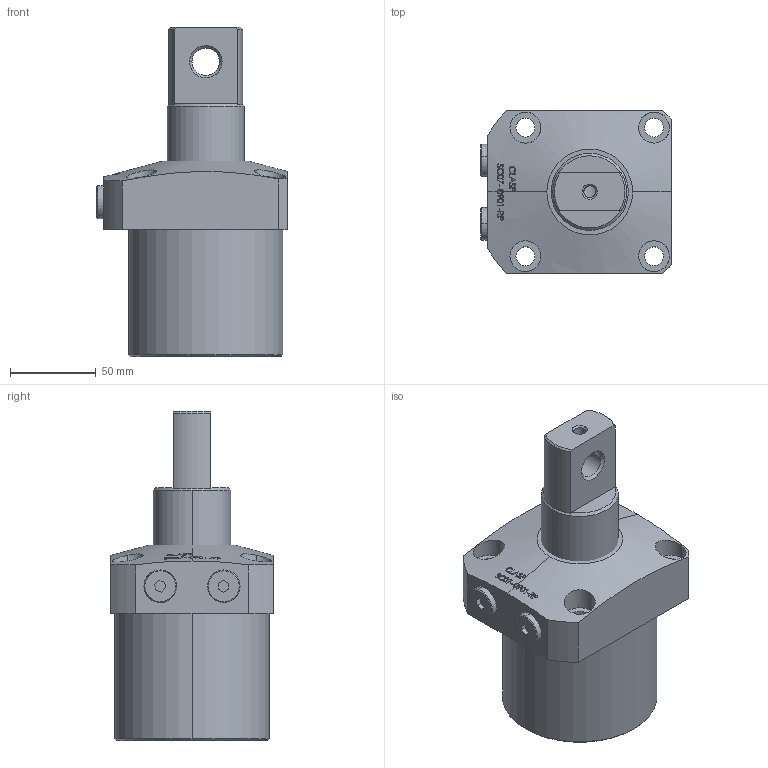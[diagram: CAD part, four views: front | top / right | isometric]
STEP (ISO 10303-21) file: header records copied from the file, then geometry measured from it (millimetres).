
FILE_DESCRIPTION (( 'STEP AP203' ), '1' );
FILE_NAME ('SC07-0901-RP.STEP', '2022-07-08T16:58:54', ( '' ), ( '' ), 'SwSTEP 2.0', 'SolidWorks 2017', '' );
FILE_SCHEMA (( 'CONFIG_CONTROL_DESIGN' ));
Length unit declared in the file: millimetre
Products named in the file (4): sc-07-0901-RP-05 plug; SC07-0901-RP; SC-07-0901-RP- BODY; SC-07-0901-RP+Piston
Assembly tree (4 placements, depth 2):
  SC07-0901-RP
    SC-07-0901-RP- BODY
    SC-07-0901-RP+Piston
    sc-07-0901-RP-05 plug  x2
Bounding box: 111 x 95 x 192 mm (x, y, z)
Volume: 917573.5 mm3; surface area: 78577.7 mm2
Topology: 4 solids, 4 shells, 327 faces, 815 edges, 537 vertices
Faces by surface type: plane 143, bspline 101, cylinder 51, cone 32
Entity records: 15750 total; most frequent: CARTESIAN_POINT 8608, ORIENTED_EDGE 1566, DIRECTION 1017, EDGE_CURVE 783, VERTEX_POINT 517, EDGE_LOOP 364, VECTOR 363, LINE 363
